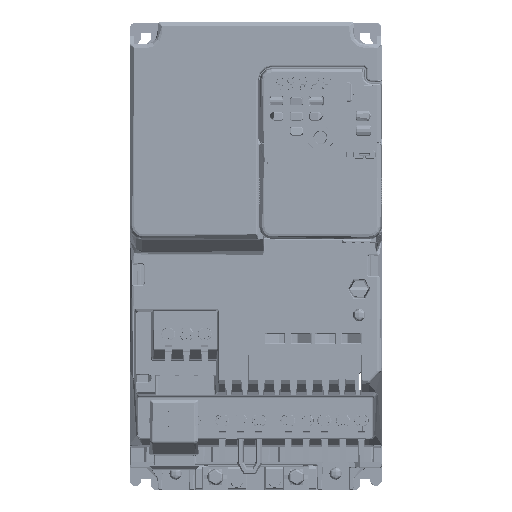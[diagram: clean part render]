
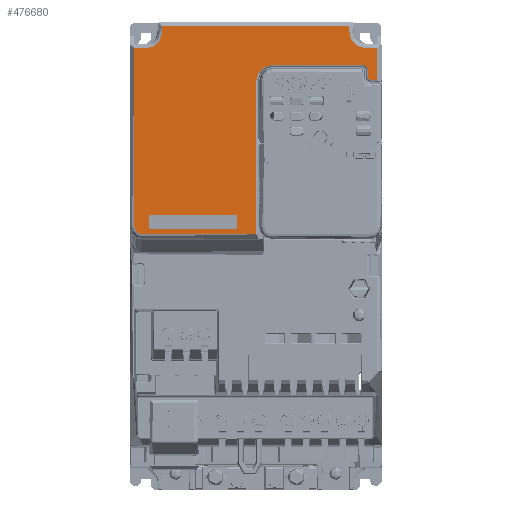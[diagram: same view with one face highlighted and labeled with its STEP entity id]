
A CAD part, top view. The second image highlights one B-rep face of the part: STEP entity #476680.
In plain terms, the highlighted planar face has unit normal (0, 0, 1).
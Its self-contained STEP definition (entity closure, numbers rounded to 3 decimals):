
#379550=DIRECTION('',(0.,1.,0.));
#379551=VECTOR('',#379550,17.813);
#379552=CARTESIAN_POINT('',(67.5,97.687,
126.));
#379553=LINE('',#379552,#379551);
#379575=DIRECTION('',(-0.999,0.052,0.));
#379576=VECTOR('',#379575,3.59);
#379577=CARTESIAN_POINT('',(67.5,97.687,
126.));
#379578=LINE('',#379577,#379576);
#379579=CARTESIAN_POINT('',(64.,99.5,126.));
#379580=DIRECTION('',(0.,0.,-1.));
#379581=DIRECTION('',(-0.052,-0.999,0.));
#379582=AXIS2_PLACEMENT_3D('',#379579,#379580,#379581);
#379584=CARTESIAN_POINT('',(62.372,104.123,
126.));
#379585=CARTESIAN_POINT('',(62.372,104.34,
126.));
#379586=CARTESIAN_POINT('',(62.305,104.75,
126.));
#379587=CARTESIAN_POINT('',(62.016,105.319,
126.));
#379588=CARTESIAN_POINT('',(61.569,105.766,
126.));
#379589=CARTESIAN_POINT('',(61.,106.055,
126.));
#379590=CARTESIAN_POINT('',(60.59,106.122,
126.));
#379591=CARTESIAN_POINT('',(60.373,106.122,
126.));
#379593=CARTESIAN_POINT('',(9.,97.5,126.));
#379594=DIRECTION('',(0.,0.,1.));
#379595=DIRECTION('',(0.,1.,0.));
#379596=AXIS2_PLACEMENT_3D('',#379593,#379594,#379595);
#379598=CARTESIAN_POINT('',(-62.997,16.394,
126.));
#379599=DIRECTION('',(0.,0.,
-1.));
#379600=DIRECTION('',(-0.001,-1.,0.));
#379601=AXIS2_PLACEMENT_3D('',#379598,#379599,#379600);
#379603=CARTESIAN_POINT('',(-60.694,124.,126.));
#379604=DIRECTION('',(0.,0.,1.));
#379605=DIRECTION('',(0.,-1.,0.));
#379606=AXIS2_PLACEMENT_3D('',#379603,#379604,#379605);
#379608=DIRECTION('',(0.052,0.999,0.));
#379609=VECTOR('',#379608,3.95);
#379610=CARTESIAN_POINT('',(-52.205,123.555,126.));
#379611=LINE('',#379610,#379609);
#379612=DIRECTION('',(0.052,-0.999,
0.));
#379613=VECTOR('',#379612,3.95);
#379614=CARTESIAN_POINT('',(51.999,127.5,126.));
#379615=LINE('',#379614,#379613);
#379616=CARTESIAN_POINT('',(60.694,124.,126.));
#379617=DIRECTION('',(0.,0.,1.));
#379618=DIRECTION('',(-0.999,-0.052,0.));
#379619=AXIS2_PLACEMENT_3D('',#379616,#379617,#379618);
#379689=DIRECTION('',(1.,0.,0.));
#379690=VECTOR('',#379689,51.373);
#379691=CARTESIAN_POINT('',(9.,106.122,126.));
#379692=LINE('',#379691,#379690);
#379703=DIRECTION('',(0.,-1.,0.));
#379704=VECTOR('',#379703,4.623);
#379705=CARTESIAN_POINT('',(62.372,104.123,
126.));
#379706=LINE('',#379705,#379704);
#379711=DIRECTION('',(0.,1.,0.));
#379712=VECTOR('',#379711,85.608);
#379713=CARTESIAN_POINT('',(0.378,11.892,
126.));
#379714=LINE('',#379713,#379712);
#385726=DIRECTION('',(-1.,0.,0.));
#385727=VECTOR('',#385726,6.806);
#385728=CARTESIAN_POINT('',(67.5,115.5,126.));
#385729=LINE('',#385728,#385727);
#385787=DIRECTION('',(-1.,0.,0.));
#385788=VECTOR('',#385787,103.997);
#385789=CARTESIAN_POINT('',(51.999,127.5,126.));
#385790=LINE('',#385789,#385788);
#385828=DIRECTION('',(-1.,0.,0.));
#385829=VECTOR('',#385828,6.806);
#385830=CARTESIAN_POINT('',(-60.694,115.5,126.));
#385831=LINE('',#385830,#385829);
#385854=DIRECTION('',(0.,-1.,0.));
#385855=VECTOR('',#385854,99.101);
#385856=CARTESIAN_POINT('',(-67.5,115.5,126.));
#385857=LINE('',#385856,#385855);
#385886=DIRECTION('',(1.,0.,0.));
#385887=VECTOR('',#385886,63.379);
#385888=CARTESIAN_POINT('',(-63.001,11.892,
126.));
#385889=LINE('',#385888,#385887);
#453339=CARTESIAN_POINT('',(52.205,123.555,126.));
#453340=CARTESIAN_POINT('',(60.694,115.5,126.));
#453341=VERTEX_POINT('',#453339);
#453342=VERTEX_POINT('',#453340);
#453343=CARTESIAN_POINT('',(67.5,97.687,
126.));
#453344=CARTESIAN_POINT('',(67.5,115.5,126.));
#453345=VERTEX_POINT('',#453343);
#453346=VERTEX_POINT('',#453344);
#453347=CARTESIAN_POINT('',(63.915,97.875,126.));
#453348=VERTEX_POINT('',#453347);
#453349=CARTESIAN_POINT('',(62.372,99.5,126.));
#453350=VERTEX_POINT('',#453349);
#453351=CARTESIAN_POINT('',(62.372,104.123,
126.));
#453352=VERTEX_POINT('',#453351);
#453353=VERTEX_POINT('',#379591);
#453354=CARTESIAN_POINT('',(9.,106.122,126.));
#453355=VERTEX_POINT('',#453354);
#453356=CARTESIAN_POINT('',(0.378,97.5,126.));
#453357=VERTEX_POINT('',#453356);
#453358=CARTESIAN_POINT('',(0.378,11.892,
126.));
#453359=VERTEX_POINT('',#453358);
#453360=CARTESIAN_POINT('',(-63.001,11.892,
126.));
#453361=VERTEX_POINT('',#453360);
#453362=CARTESIAN_POINT('',(-67.5,16.401,
126.));
#453363=VERTEX_POINT('',#453362);
#453364=CARTESIAN_POINT('',(-67.5,115.5,126.));
#453365=VERTEX_POINT('',#453364);
#453366=CARTESIAN_POINT('',(-60.694,115.5,126.));
#453367=VERTEX_POINT('',#453366);
#453368=CARTESIAN_POINT('',(-52.205,123.555,126.));
#453369=VERTEX_POINT('',#453368);
#453370=CARTESIAN_POINT('',(-51.999,127.5,126.));
#453371=VERTEX_POINT('',#453370);
#453372=CARTESIAN_POINT('',(51.999,127.5,126.));
#453373=VERTEX_POINT('',#453372);
#476638=CARTESIAN_POINT('',(0.,0.,126.));
#476639=DIRECTION('',(0.,0.,1.));
#476640=DIRECTION('',(1.,0.,0.));
#476641=AXIS2_PLACEMENT_3D('',#476638,#476639,#476640);
#476642=PLANE('',#476641);
#476643=ORIENTED_EDGE('',*,*,#476629,.F.);
#476645=ORIENTED_EDGE('',*,*,#476644,.T.);
#476647=ORIENTED_EDGE('',*,*,#476646,.T.);
#476649=ORIENTED_EDGE('',*,*,#476648,.F.);
#476651=ORIENTED_EDGE('',*,*,#476650,.T.);
#476653=ORIENTED_EDGE('',*,*,#476652,.F.);
#476655=ORIENTED_EDGE('',*,*,#476654,.T.);
#476657=ORIENTED_EDGE('',*,*,#476656,.F.);
#476659=ORIENTED_EDGE('',*,*,#476658,.F.);
#476661=ORIENTED_EDGE('',*,*,#476660,.T.);
#476663=ORIENTED_EDGE('',*,*,#476662,.F.);
#476665=ORIENTED_EDGE('',*,*,#476664,.F.);
#476667=ORIENTED_EDGE('',*,*,#476666,.T.);
#476669=ORIENTED_EDGE('',*,*,#476668,.T.);
#476671=ORIENTED_EDGE('',*,*,#476670,.F.);
#476673=ORIENTED_EDGE('',*,*,#476672,.T.);
#476675=ORIENTED_EDGE('',*,*,#476674,.T.);
#476677=ORIENTED_EDGE('',*,*,#476676,.F.);
#476678=EDGE_LOOP('',(#476643,#476645,#476647,#476649,#476651,#476653,#476655,
#476657,#476659,#476661,#476663,#476665,#476667,#476669,#476671,#476673,#476675,
#476677));
#476679=FACE_OUTER_BOUND('',#476678,.F.);
#476680=ADVANCED_FACE('',(#476679),#476642,.T.);
#379583=CIRCLE('',#379582,1.628);
#379592=B_SPLINE_CURVE_WITH_KNOTS('',3,(#379584,#379585,#379586,#379587,#379588,
#379589,#379590,#379591),.UNSPECIFIED.,.F.,.F.,(4,1,1,1,1,4),(0.,0.2,0.4,
0.6,0.8,1.),.UNSPECIFIED.);
#379597=CIRCLE('',#379596,8.622);
#379602=CIRCLE('',#379601,4.503);
#379607=CIRCLE('',#379606,8.5);
#379620=CIRCLE('',#379619,8.5);
#476629=EDGE_CURVE('',#453345,#453346,#379553,.T.);
#476644=EDGE_CURVE('',#453345,#453348,#379578,.T.);
#476646=EDGE_CURVE('',#453348,#453350,#379583,.T.);
#476648=EDGE_CURVE('',#453352,#453350,#379706,.T.);
#476650=EDGE_CURVE('',#453352,#453353,#379592,.T.);
#476652=EDGE_CURVE('',#453355,#453353,#379692,.T.);
#476654=EDGE_CURVE('',#453355,#453357,#379597,.T.);
#476656=EDGE_CURVE('',#453359,#453357,#379714,.T.);
#476658=EDGE_CURVE('',#453361,#453359,#385889,.T.);
#476660=EDGE_CURVE('',#453361,#453363,#379602,.T.);
#476662=EDGE_CURVE('',#453365,#453363,#385857,.T.);
#476664=EDGE_CURVE('',#453367,#453365,#385831,.T.);
#476666=EDGE_CURVE('',#453367,#453369,#379607,.T.);
#476668=EDGE_CURVE('',#453369,#453371,#379611,.T.);
#476670=EDGE_CURVE('',#453373,#453371,#385790,.T.);
#476672=EDGE_CURVE('',#453373,#453341,#379615,.T.);
#476674=EDGE_CURVE('',#453341,#453342,#379620,.T.);
#476676=EDGE_CURVE('',#453346,#453342,#385729,.T.);
